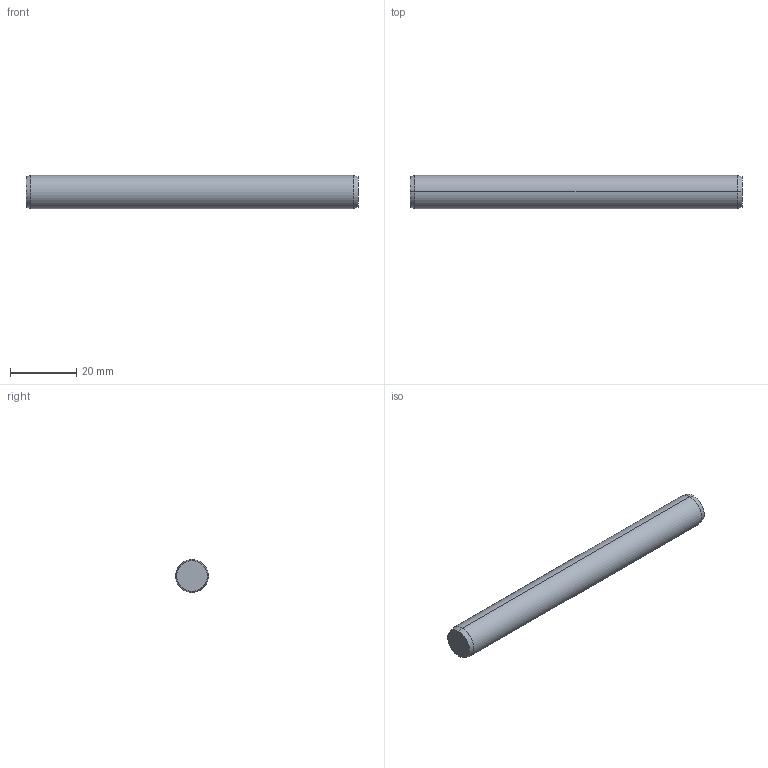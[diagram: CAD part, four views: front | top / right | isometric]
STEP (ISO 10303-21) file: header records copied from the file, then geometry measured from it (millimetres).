
FILE_DESCRIPTION (( 'STEP AP203' ), '1' );
FILE_NAME ('P1206.100-100.step', '2017-06-14T08:35:14', ( 'User' ), ( '' ), 'SwSTEP 2.0', 'SolidWorks 2009', '' );
FILE_SCHEMA (( 'CONFIG_CONTROL_DESIGN' ));
Length unit declared in the file: millimetre
Products named in the file (1): P1206.100-100
Bounding box: 100 x 10 x 10 mm (x, y, z)
Volume: 7835.5 mm3; surface area: 3273.8 mm2
Topology: 1 solids, 1 shells, 8 faces, 14 edges, 8 vertices
Faces by surface type: cone 4, cylinder 2, plane 2
Entity records: 271 total; most frequent: DIRECTION 40, CARTESIAN_POINT 31, ORIENTED_EDGE 28, AXIS2_PLACEMENT_3D 17, EDGE_CURVE 14, EDGE_LOOP 8, ADVANCED_FACE 8, VERTEX_POINT 8
